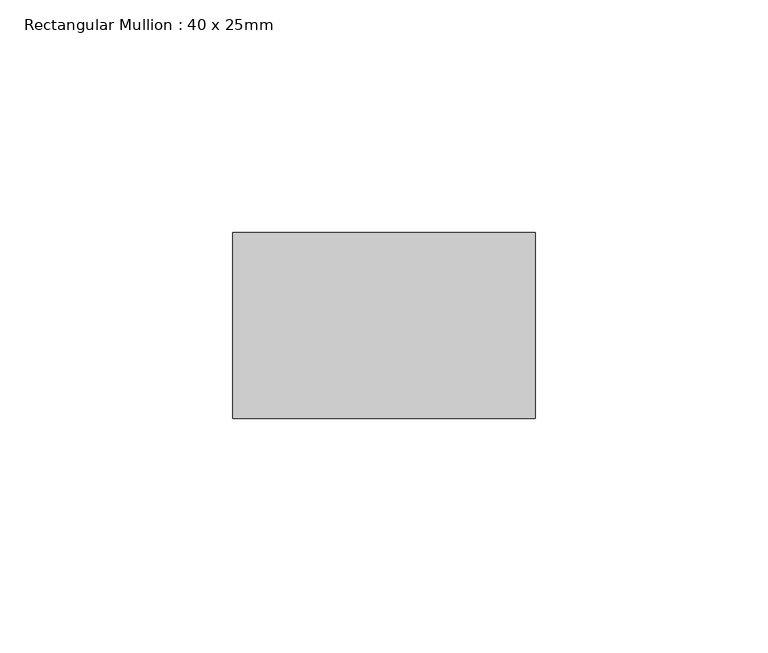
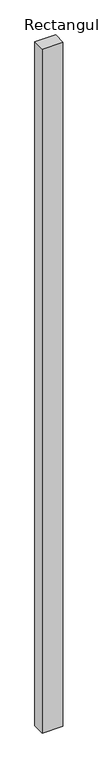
"""IFC4 building model written with IfcOpenShell, lengths in millimetres: member geometry, Rectangular Mullion : 40 x 25mm."""

from ifc_helpers import new_model, si_unit, frame, origin, place, context, project, spatial, polyline, outline, extrude, source, transform, mapped, element, save


def rectangular_mullion_40_x_25mm_b96dde8e(model_context):
    return source(origin(), model_context, "Body", "SweptSolid", [
        extrude(outline(polyline([(40.0, -20.0), (40.0, -60.0), (-25.0, -60.0), (-25.0, -20.0), (40.0, -20.0)])), frame((0.0, 0.0, -2281.4672414), z_axis=(0.0, 0.0, 1.0), x_axis=(1.0, 0.0, 0.0)), (0.0, 0.0, 1.0), 2281.4672414),
    ])


if __name__ == "__main__":
    model = new_model("IFC4")
    model_context = context("Model", 3, world=origin())
    ifc_project = project(units=[si_unit("LENGTHUNIT", "METRE", prefix="MILLI")], contexts=[model_context])
    site = spatial("IfcSite", under=ifc_project)
    building = spatial("IfcBuilding", under=site)
    placement = place(None, origin())
    rectangular_mullion_40_x_25mm_shape = rectangular_mullion_40_x_25mm_b96dde8e(model_context)
    element("IfcMember", 1, ObjectType="Rectangular Mullion : 40 x 25mm", at=placement, inside=building, context=model_context, shape_type="MappedRepresentation", body=[
        mapped(rectangular_mullion_40_x_25mm_shape, transform((0.0, 0.0, 0.0), x_axis=(1.0, 0.0, 0.0), y_axis=(0.0, 1.0, 0.0), z_axis=(0.0, 0.0, 1.0))),
    ])
    save(model, "model.ifc")
